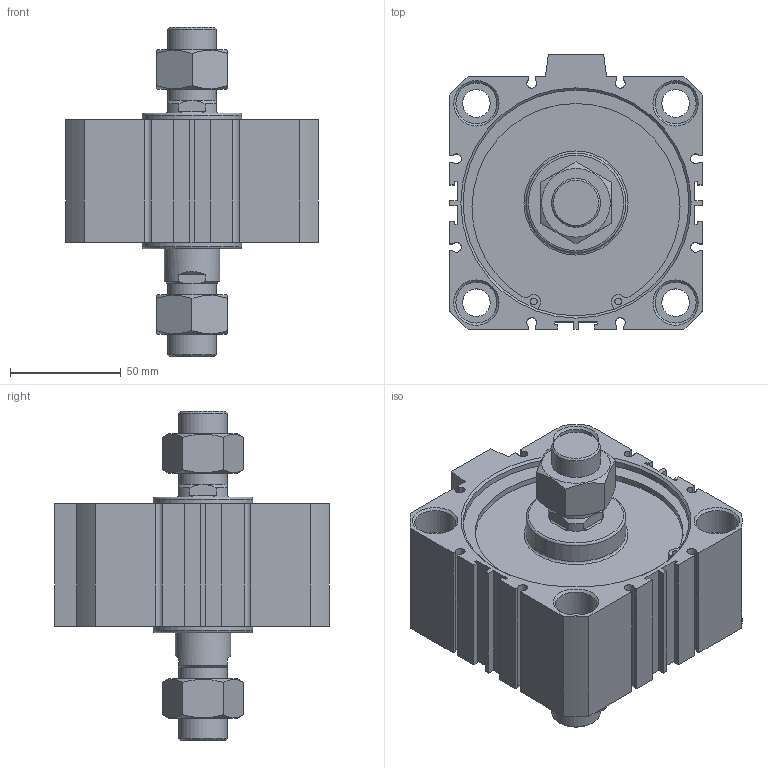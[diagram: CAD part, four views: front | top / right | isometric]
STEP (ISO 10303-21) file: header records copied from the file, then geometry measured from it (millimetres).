
FILE_DESCRIPTION((''),'2;1');
FILE_NAME('I:\3D電子目錄\氣缸\JDD\JDD-B\JDD100-B\JDD100x10-B.stp','2007-02-27T13:20:11',('662F206'),(''),'Autodesk Inventor 10','Autodesk Inventor 10','');
FILE_SCHEMA(('AUTOMOTIVE_DESIGN { 1 0 10303 214 1 1 1 1 }'));
Length unit declared in the file: millimetre
Products named in the file (3): JDD100-B; JDD100x10-B; R 形環 100
Assembly tree (3 placements, depth 2):
  JDD100-B
    JDD100x10-B
    R 形環 100  x2
Bounding box: 114 x 124 x 148.7 mm (x, y, z)
Volume: 627265.2 mm3; surface area: 99310.7 mm2
Topology: 3 solids, 3 shells, 219 faces, 538 edges, 351 vertices
Faces by surface type: plane 130, cylinder 59, cone 26, bspline 2, torus 2
Full cylindrical faces by diameter (mm): 3.1 x4, 3.5 x2, 12.5 x4, 18.5 x8, 22 x4, 25 x1, 45 x2, 102 x4, 106 x2
Entity records: 5905 total; most frequent: CARTESIAN_POINT 1143, DIRECTION 978, ORIENTED_EDGE 894, EDGE_CURVE 447, AXIS2_PLACEMENT_3D 356, VERTEX_POINT 323, EDGE_LOOP 298, VECTOR 266
